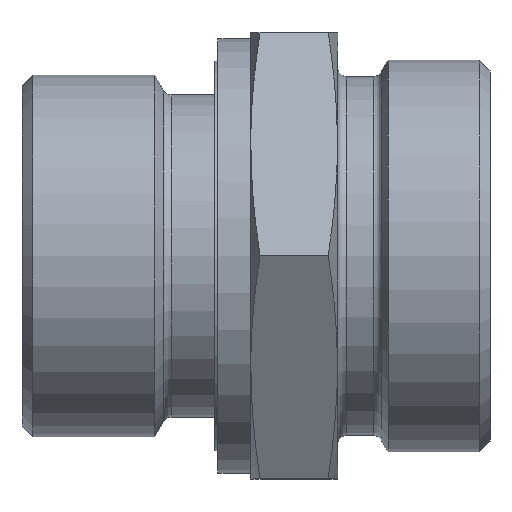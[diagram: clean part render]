
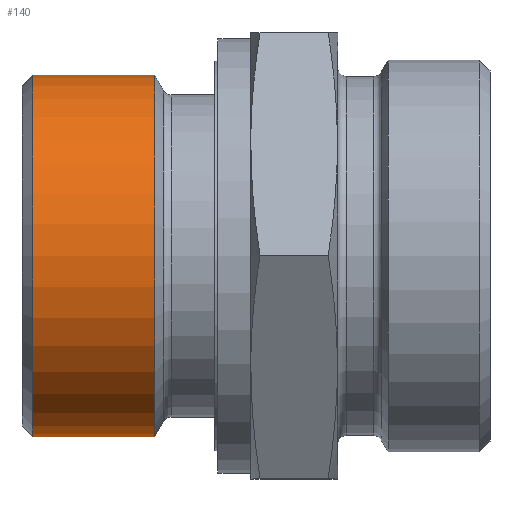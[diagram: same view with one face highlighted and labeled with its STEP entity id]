
A CAD part, top view. The second image highlights one B-rep face of the part: STEP entity #140.
In plain terms, the highlighted cylindrical face has radius 16.625 mm (diameter 33.249 mm), a full revolution.
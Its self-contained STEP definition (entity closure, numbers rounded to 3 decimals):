
#140 = ADVANCED_FACE( '', ( #284, #285 ), #286, .T. );
#284 = FACE_OUTER_BOUND( '', #444, .T. );
#285 = FACE_OUTER_BOUND( '', #445, .T. );
#286 = CYLINDRICAL_SURFACE( '', #446, 16.625 );
#444 = EDGE_LOOP( '', ( #645 ) );
#445 = EDGE_LOOP( '', ( #646 ) );
#446 = AXIS2_PLACEMENT_3D( '', #647, #648, #649 );
#645 = ORIENTED_EDGE( '', *, *, #802, .T. );
#646 = ORIENTED_EDGE( '', *, *, #830, .T. );
#647 = CARTESIAN_POINT( '', ( -12.5, 0., 0. ) );
#648 = DIRECTION( '', ( 1., 0., 0. ) );
#649 = DIRECTION( '', ( 0., 0., 1. ) );
#802 = EDGE_CURVE( '', #908, #908, #909, .F. );
#830 = EDGE_CURVE( '', #950, #950, #951, .T. );
#908 = VERTEX_POINT( '', #1098 );
#909 = CIRCLE( '', #1099, 16.625 );
#950 = VERTEX_POINT( '', #1169 );
#951 = CIRCLE( '', #1170, 16.625 );
#1098 = CARTESIAN_POINT( '', ( -42., 0., 16.625 ) );
#1099 = AXIS2_PLACEMENT_3D( '', #1262, #1263, #1264 );
#1169 = CARTESIAN_POINT( '', ( -30.822, 0., 16.625 ) );
#1170 = AXIS2_PLACEMENT_3D( '', #1298, #1299, #1300 );
#1262 = CARTESIAN_POINT( '', ( -42., 0., 0. ) );
#1263 = DIRECTION( '', ( -1., 0., 0. ) );
#1264 = DIRECTION( '', ( 0., 0., 1. ) );
#1298 = CARTESIAN_POINT( '', ( -30.822, 0., 0. ) );
#1299 = DIRECTION( '', ( -1., 0., 0. ) );
#1300 = DIRECTION( '', ( 0., 0., 1. ) );
